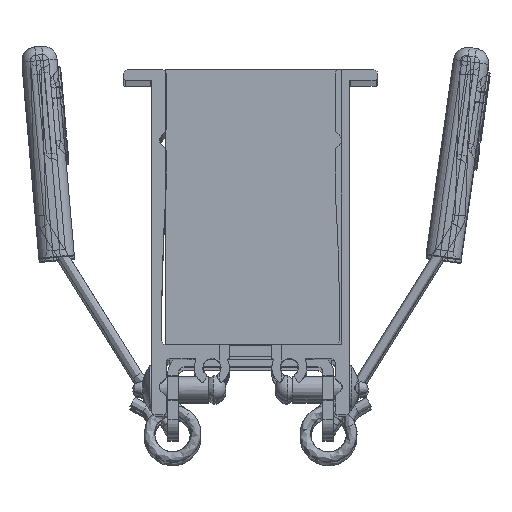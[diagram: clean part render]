
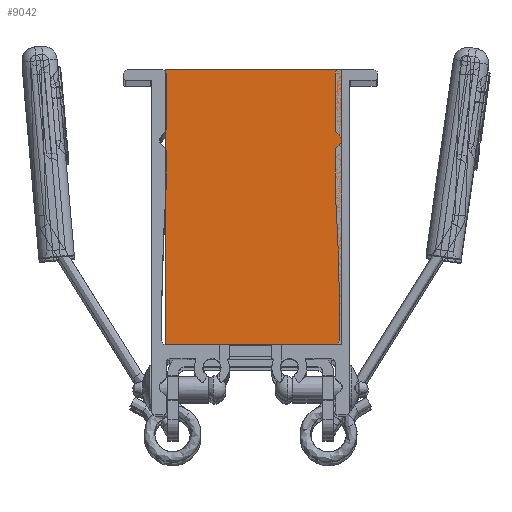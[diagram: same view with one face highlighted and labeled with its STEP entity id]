
A CAD part, top view. The second image highlights one B-rep face of the part: STEP entity #9042.
In plain terms, the highlighted planar face has unit normal (0, 0, 1) as drawn and (0, -1, 0) by its records, which use the part's own axes.
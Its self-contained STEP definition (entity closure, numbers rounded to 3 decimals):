
#382=PLANE('',#10132);
#1165=LINE('',#17649,#1788);
#1173=LINE('',#17665,#1796);
#1174=LINE('',#17667,#1797);
#1175=LINE('',#17668,#1798);
#1788=VECTOR('',#12772,1000.);
#1796=VECTOR('',#12784,1000.);
#1797=VECTOR('',#12787,1000.);
#1798=VECTOR('',#12788,1000.);
#4421=ORIENTED_EDGE('',*,*,#5748,.F.);
#4422=ORIENTED_EDGE('',*,*,#5747,.F.);
#4423=ORIENTED_EDGE('',*,*,#5749,.T.);
#4424=ORIENTED_EDGE('',*,*,#5739,.T.);
#5739=EDGE_CURVE('',#6589,#6587,#1165,.T.);
#5747=EDGE_CURVE('',#6594,#6593,#1173,.T.);
#5748=EDGE_CURVE('',#6593,#6587,#1174,.T.);
#5749=EDGE_CURVE('',#6594,#6589,#1175,.T.);
#6587=VERTEX_POINT('',#17647);
#6589=VERTEX_POINT('',#17650);
#6593=VERTEX_POINT('',#17662);
#6594=VERTEX_POINT('',#17664);
#7670=EDGE_LOOP('',(#4421,#4422,#4423,#4424));
#8254=FACE_BOUND('',#7670,.T.);
#9042=ADVANCED_FACE('',(#8254),#382,.T.);
#10132=AXIS2_PLACEMENT_3D('',#17666,#12785,#12786);
#12772=DIRECTION('',(0.,0.,-1.));
#12784=DIRECTION('',(0.,0.,-1.));
#12785=DIRECTION('',(0.,-1.,0.));
#12786=DIRECTION('',(0.,0.,-1.));
#12787=DIRECTION('',(-1.,0.,0.));
#12788=DIRECTION('',(-1.,0.,0.));
#17647=CARTESIAN_POINT('',(-12.5,-726.,0.));
#17649=CARTESIAN_POINT('',(-12.5,-726.,39.));
#17650=CARTESIAN_POINT('',(-12.5,-726.,39.));
#17662=CARTESIAN_POINT('',(12.5,-726.,0.));
#17664=CARTESIAN_POINT('',(12.5,-726.,39.));
#17665=CARTESIAN_POINT('',(12.5,-726.,39.));
#17666=CARTESIAN_POINT('',(12.5,-726.,39.));
#17667=CARTESIAN_POINT('',(12.5,-726.,0.));
#17668=CARTESIAN_POINT('',(12.5,-726.,39.));
